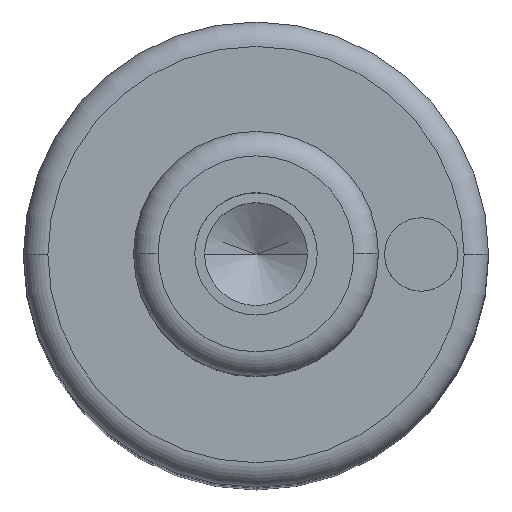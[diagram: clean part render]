
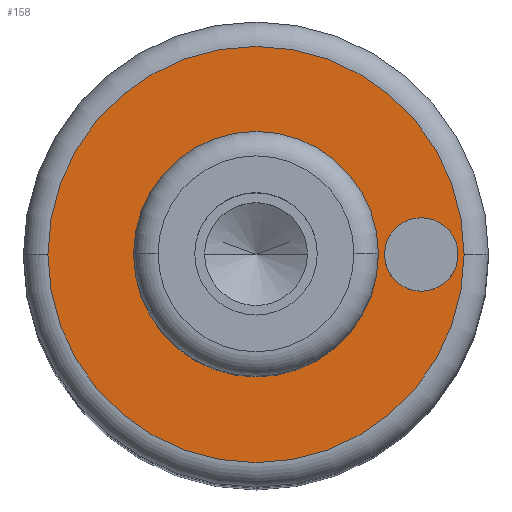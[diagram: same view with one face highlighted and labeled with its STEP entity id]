
A CAD part, top view. The second image highlights one B-rep face of the part: STEP entity #158.
In plain terms, the highlighted planar face has unit normal (0, 0, 1).
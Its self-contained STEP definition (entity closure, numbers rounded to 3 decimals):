
#105=PLANE('',#628);
#113=FACE_BOUND('',#229,.T.);
#114=FACE_BOUND('',#230,.T.);
#115=FACE_BOUND('',#231,.T.);
#158=ADVANCED_FACE('',(#113,#114,#115),#105,.T.);
#229=EDGE_LOOP('',(#375,#376));
#230=EDGE_LOOP('',(#377,#378));
#231=EDGE_LOOP('',(#379,#380));
#259=CIRCLE('',#596,5.);
#260=CIRCLE('',#598,5.);
#264=CIRCLE('',#603,8.5);
#265=CIRCLE('',#605,8.5);
#277=CIRCLE('',#626,1.5);
#278=CIRCLE('',#627,1.5);
#375=ORIENTED_EDGE('',*,*,#488,.F.);
#376=ORIENTED_EDGE('',*,*,#489,.F.);
#377=ORIENTED_EDGE('',*,*,#507,.F.);
#378=ORIENTED_EDGE('',*,*,#508,.F.);
#379=ORIENTED_EDGE('',*,*,#484,.T.);
#380=ORIENTED_EDGE('',*,*,#482,.T.);
#434=VERTEX_POINT('',#875);
#435=VERTEX_POINT('',#877);
#436=VERTEX_POINT('',#883);
#439=VERTEX_POINT('',#888);
#448=VERTEX_POINT('',#927);
#449=VERTEX_POINT('',#928);
#482=EDGE_CURVE('',#435,#434,#259,.T.);
#484=EDGE_CURVE('',#434,#435,#260,.T.);
#488=EDGE_CURVE('',#439,#436,#264,.T.);
#489=EDGE_CURVE('',#436,#439,#265,.T.);
#507=EDGE_CURVE('',#448,#449,#277,.T.);
#508=EDGE_CURVE('',#449,#448,#278,.T.);
#596=AXIS2_PLACEMENT_3D('',#876,#707,#708);
#598=AXIS2_PLACEMENT_3D('',#880,#712,#713);
#603=AXIS2_PLACEMENT_3D('',#889,#722,#723);
#605=AXIS2_PLACEMENT_3D('',#891,#726,#727);
#626=AXIS2_PLACEMENT_3D('',#926,#774,#775);
#627=AXIS2_PLACEMENT_3D('',#929,#776,#777);
#628=AXIS2_PLACEMENT_3D('',#930,#778,#779);
#707=DIRECTION('',(0.,0.,-1.));
#708=DIRECTION('',(0.,1.,0.));
#712=DIRECTION('',(0.,0.,-1.));
#713=DIRECTION('',(0.,-1.,0.));
#722=DIRECTION('',(0.,0.,-1.));
#723=DIRECTION('',(0.,1.,0.));
#726=DIRECTION('',(0.,0.,-1.));
#727=DIRECTION('',(0.,-1.,0.));
#774=DIRECTION('',(0.,0.,1.));
#775=DIRECTION('',(0.,1.,0.));
#776=DIRECTION('',(0.,0.,1.));
#777=DIRECTION('',(0.,-1.,0.));
#778=DIRECTION('',(0.,0.,1.));
#779=DIRECTION('',(0.,-1.,0.));
#875=CARTESIAN_POINT('',(-5.,0.,68.));
#876=CARTESIAN_POINT('',(0.,0.,68.));
#877=CARTESIAN_POINT('',(5.,0.,68.));
#880=CARTESIAN_POINT('',(0.,0.,68.));
#883=CARTESIAN_POINT('',(-8.5,0.,68.));
#888=CARTESIAN_POINT('',(8.5,0.,68.));
#889=CARTESIAN_POINT('',(0.,0.,68.));
#891=CARTESIAN_POINT('',(0.,0.,68.));
#926=CARTESIAN_POINT('',(6.75,0.,68.));
#927=CARTESIAN_POINT('',(5.25,0.,68.));
#928=CARTESIAN_POINT('',(8.25,0.,68.));
#929=CARTESIAN_POINT('',(6.75,0.,68.));
#930=CARTESIAN_POINT('',(0.,0.,68.));
